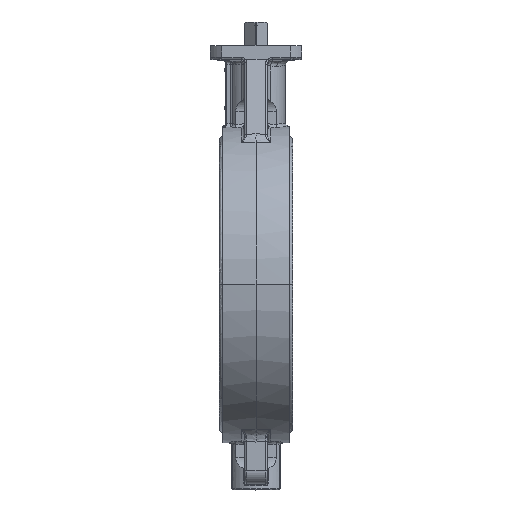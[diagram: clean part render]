
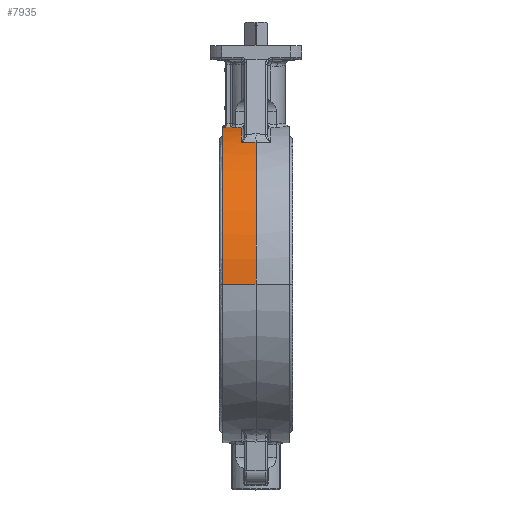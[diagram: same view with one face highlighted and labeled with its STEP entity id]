
A CAD part, top view. The second image highlights one B-rep face of the part: STEP entity #7935.
In plain terms, the highlighted conical face has half-angle 2.626 degrees and reference radius 244 mm.
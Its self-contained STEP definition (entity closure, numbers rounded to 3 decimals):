
#1258 = DIRECTION ( 'NONE',  ( 0., 0., -1. ) ) ;
#2315 = DIRECTION ( 'NONE',  ( 1., 0., 0. ) ) ;
#2882 = DIRECTION ( 'NONE',  ( 1., 0., 0. ) ) ;
#3363 = EDGE_CURVE ( 'NONE', #33787, #18618, #34672, .T. ) ;
#4106 = CIRCLE ( 'NONE', #31039, 241.661 ) ;
#4169 = CARTESIAN_POINT ( 'NONE',  ( -22.271, 216.101, 111.081 ) ) ;
#4931 = CARTESIAN_POINT ( 'NONE',  ( -51., 0., 0. ) ) ;
#5901 = B_SPLINE_CURVE_WITH_KNOTS ( 'NONE', 3,
 ( #31112, #71887, #8093, #13907 ),
 .UNSPECIFIED., .F., .F.,
 ( 4, 4 ),
 ( 0., 1. ),
 .UNSPECIFIED. ) ;
#7826 = CARTESIAN_POINT ( 'NONE',  ( -43.329, 240.201, 29.553 ) ) ;
#7935 = ADVANCED_FACE ( 'NONE', ( #15395 ), #72485, .T. ) ;
#8093 = CARTESIAN_POINT ( 'NONE',  ( -29.186, 239.837, 36.915 ) ) ;
#9034 = ORIENTED_EDGE ( 'NONE', *, *, #59202, .T. ) ;
#11211 = CARTESIAN_POINT ( 'NONE',  ( 0., 0., 244. ) ) ;
#13123 = CARTESIAN_POINT ( 'NONE',  ( -37.454, 240.125, 32.367 ) ) ;
#13907 = CARTESIAN_POINT ( 'NONE',  ( -32.644, 239.677, 36.914 ) ) ;
#14251 = B_SPLINE_CURVE_WITH_KNOTS ( 'NONE', 3,
 ( #27439, #68207, #38829, #56293 ),
 .UNSPECIFIED., .F., .F.,
 ( 4, 4 ),
 ( 0., 1. ),
 .UNSPECIFIED. ) ;
#15053 = CARTESIAN_POINT ( 'NONE',  ( 0., 0., 0. ) ) ;
#15395 = FACE_OUTER_BOUND ( 'NONE', #72470, .T. ) ;
#16406 = ORIENTED_EDGE ( 'NONE', *, *, #40061, .F. ) ;
#16580 = DIRECTION ( 'NONE',  ( 1., 0., 0. ) ) ;
#16883 = CARTESIAN_POINT ( 'NONE',  ( -39.493, 240.354, 29.753 ) ) ;
#18157 = EDGE_CURVE ( 'NONE', #20674, #44231, #61565, .T. ) ;
#18618 = VERTEX_POINT ( 'NONE', #38859 ) ;
#19091 = CIRCLE ( 'NONE', #22666, 244. ) ;
#20674 = VERTEX_POINT ( 'NONE', #16883 ) ;
#21028 = VECTOR ( 'NONE', #56230, 1000. ) ;
#22666 = AXIS2_PLACEMENT_3D ( 'NONE', #15053, #2882, #43440 ) ;
#23320 = ORIENTED_EDGE ( 'NONE', *, *, #18157, .T. ) ;
#23949 = EDGE_CURVE ( 'NONE', #18618, #51523, #5901, .T. ) ;
#25882 = DIRECTION ( 'NONE',  ( 0., 0., -1. ) ) ;
#27439 = CARTESIAN_POINT ( 'NONE',  ( 0., 217.399, 110.787 ) ) ;
#27462 = ORIENTED_EDGE ( 'NONE', *, *, #3363, .T. ) ;
#30594 = CARTESIAN_POINT ( 'NONE',  ( -39.493, 240.354, 29.753 ) ) ;
#31039 = AXIS2_PLACEMENT_3D ( 'NONE', #4931, #16580, #57083 ) ;
#31112 = CARTESIAN_POINT ( 'NONE',  ( -22.271, 240.158, 36.916 ) ) ;
#33787 = VERTEX_POINT ( 'NONE', #4169 ) ;
#34672 = CIRCLE ( 'NONE', #74648, 242.978 ) ;
#35913 = CARTESIAN_POINT ( 'NONE',  ( -39.493, 240.354, 29.753 ) ) ;
#35940 = DIRECTION ( 'NONE',  ( -1., 0., 0. ) ) ;
#36533 = CARTESIAN_POINT ( 'NONE',  ( -32.644, 239.677, 36.914 ) ) ;
#36992 = CARTESIAN_POINT ( 'NONE',  ( 0., 0., 0. ) ) ;
#38081 = VERTEX_POINT ( 'NONE', #55939 ) ;
#38829 = CARTESIAN_POINT ( 'NONE',  ( -14.871, 216.533, 110.983 ) ) ;
#38859 = CARTESIAN_POINT ( 'NONE',  ( -22.271, 240.158, 36.916 ) ) ;
#40061 = EDGE_CURVE ( 'NONE', #68848, #63532, #19091, .T. ) ;
#43440 = DIRECTION ( 'NONE',  ( 0., 0., 1. ) ) ;
#44231 = VERTEX_POINT ( 'NONE', #44714 ) ;
#44487 = ORIENTED_EDGE ( 'NONE', *, *, #50853, .T. ) ;
#44714 = CARTESIAN_POINT ( 'NONE',  ( -51., 239.896, 29.154 ) ) ;
#47952 = CARTESIAN_POINT ( 'NONE',  ( 0., 217.399, 110.787 ) ) ;
#50035 = LINE ( 'NONE', #56485, #21028 ) ;
#50853 = EDGE_CURVE ( 'NONE', #38081, #63532, #50035, .T. ) ;
#50862 = B_SPLINE_CURVE_WITH_KNOTS ( 'NONE', 3,
 ( #53401, #59482, #13123, #30594 ),
 .UNSPECIFIED., .F., .F.,
 ( 4, 4 ),
 ( 0., 1. ),
 .UNSPECIFIED. ) ;
#51523 = VERTEX_POINT ( 'NONE', #36533 ) ;
#53401 = CARTESIAN_POINT ( 'NONE',  ( -32.644, 239.677, 36.914 ) ) ;
#53649 = CARTESIAN_POINT ( 'NONE',  ( -47.164, 240.049, 29.353 ) ) ;
#54399 = CARTESIAN_POINT ( 'NONE',  ( -51., 239.896, 29.154 ) ) ;
#55939 = CARTESIAN_POINT ( 'NONE',  ( -51., 0., 241.661 ) ) ;
#56185 = EDGE_CURVE ( 'NONE', #68848, #33787, #14251, .T. ) ;
#56199 = ORIENTED_EDGE ( 'NONE', *, *, #62267, .T. ) ;
#56230 = DIRECTION ( 'NONE',  ( 0.999, 0., 0.046 ) ) ;
#56293 = CARTESIAN_POINT ( 'NONE',  ( -22.271, 216.101, 111.081 ) ) ;
#56485 = CARTESIAN_POINT ( 'NONE',  ( 0., 0., 244. ) ) ;
#57083 = DIRECTION ( 'NONE',  ( 0., 0., -1. ) ) ;
#59202 = EDGE_CURVE ( 'NONE', #51523, #20674, #50862, .T. ) ;
#59482 = CARTESIAN_POINT ( 'NONE',  ( -35.171, 239.892, 34.753 ) ) ;
#60137 = ORIENTED_EDGE ( 'NONE', *, *, #56185, .T. ) ;
#61565 = B_SPLINE_CURVE_WITH_KNOTS ( 'NONE', 3,
 ( #35913, #7826, #53649, #54399 ),
 .UNSPECIFIED., .F., .F.,
 ( 4, 4 ),
 ( 0., 1. ),
 .UNSPECIFIED. ) ;
#62267 = EDGE_CURVE ( 'NONE', #44231, #38081, #4106, .T. ) ;
#63532 = VERTEX_POINT ( 'NONE', #11211 ) ;
#64838 = CARTESIAN_POINT ( 'NONE',  ( -22.271, 0., 0. ) ) ;
#68207 = CARTESIAN_POINT ( 'NONE',  ( -7.447, 216.965, 110.885 ) ) ;
#68848 = VERTEX_POINT ( 'NONE', #47952 ) ;
#70424 = AXIS2_PLACEMENT_3D ( 'NONE', #36992, #2315, #25882 ) ;
#71887 = CARTESIAN_POINT ( 'NONE',  ( -25.729, 239.997, 36.915 ) ) ;
#72470 = EDGE_LOOP ( 'NONE', ( #56199, #44487, #16406, #60137, #27462, #74357, #9034, #23320 ) ) ;
#72485 = CONICAL_SURFACE ( 'NONE', #70424, 244., 0.046 ) ;
#74357 = ORIENTED_EDGE ( 'NONE', *, *, #23949, .T. ) ;
#74648 = AXIS2_PLACEMENT_3D ( 'NONE', #64838, #35940, #1258 ) ;
